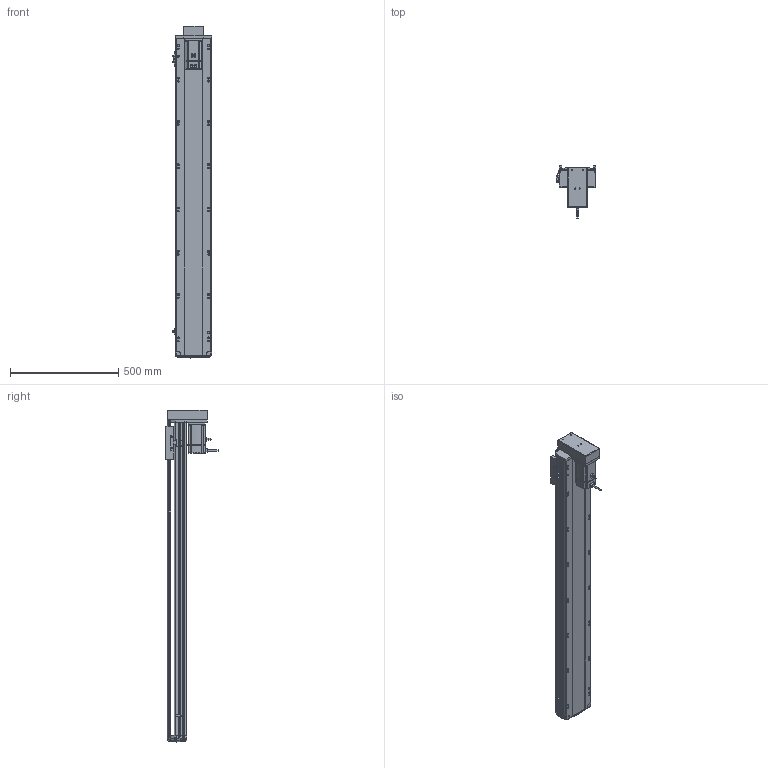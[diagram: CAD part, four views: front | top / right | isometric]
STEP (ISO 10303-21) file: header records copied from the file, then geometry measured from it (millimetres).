
FILE_DESCRIPTION (( 'STEP AP214' ), '1' );
FILE_NAME ('RTH17-XX-1250-M-M75-C4.STEP', '2025-10-24T10:28:43', ( '' ), ( '' ), 'SwSTEP 2.0', 'SolidWorks 2018', '' );
FILE_SCHEMA (( 'AUTOMOTIVE_DESIGN' ));
Length unit declared in the file: millimetre
Products named in the file (10): RTH17-XX-1250-M-M75-C4; N_RTH-BL-012 感应片(外置)^RTH17-XX-XX-M-M75-C4（方程式）; N_RTH17-M-011底座^RTH17-XX-XX-M-M75-C4（方程式）; N_M75^RTH17-XX-XX-M-M75-C4（方程式）; N_RTH17-GY-001P^RTH17-XX-XX-M-M75-C4（方程式）; N_OMRON EE-SX672 換覜ん^RTH17-XX-XX-M-M75-C4ㄗ源最宒ㄘ; N_RTH17-M-018盖子^RTH17-XX-XX-M-M75-C4（方程式）; N_RTH17-M-007上盖^RTH17-XX-XX-M-M75-C4（方程式）; N_RTH17-M-008-P75电机安装板下折750W^RTH17-XX-XX-M-M75-C4（方程式）; N_RTH17-E-004丝杆螺母连接座^RTH17-XX-XX-M-M75-C4（方程式）
Assembly tree (11 placements, depth 2):
  RTH17-XX-1250-M-M75-C4
    N_RTH17-M-011底座^RTH17-XX-XX-M-M75-C4（方程式）
    N_RTH17-M-007上盖^RTH17-XX-XX-M-M75-C4（方程式）
    N_M75^RTH17-XX-XX-M-M75-C4（方程式）
    N_OMRON EE-SX672 換覜ん^RTH17-XX-XX-M-M75-C4ㄗ源最宒ㄘ  x3
    N_RTH-BL-012 感应片(外置)^RTH17-XX-XX-M-M75-C4（方程式）
    N_RTH17-M-008-P75电机安装板下折750W^RTH17-XX-XX-M-M75-C4（方程式）
    N_RTH17-M-018盖子^RTH17-XX-XX-M-M75-C4（方程式）
    N_RTH17-E-004丝杆螺母连接座^RTH17-XX-XX-M-M75-C4（方程式）
    N_RTH17-GY-001P^RTH17-XX-XX-M-M75-C4（方程式）
Bounding box: 183.5 x 240.7 x 1533.19 mm (x, y, z)
Volume: 12009367.7 mm3; surface area: 1625845.2 mm2
Topology: 10 solids, 12 shells, 1789 faces, 4958 edges, 3212 vertices
Faces by surface type: plane 834, cylinder 541, bspline 377, cone 28, torus 9
Entity records: 52827 total; most frequent: CARTESIAN_POINT 21028, ORIENTED_EDGE 6940, DIRECTION 5764, EDGE_CURVE 3474, VERTEX_POINT 2248, AXIS2_PLACEMENT_3D 1951, VECTOR 1862, LINE 1862
